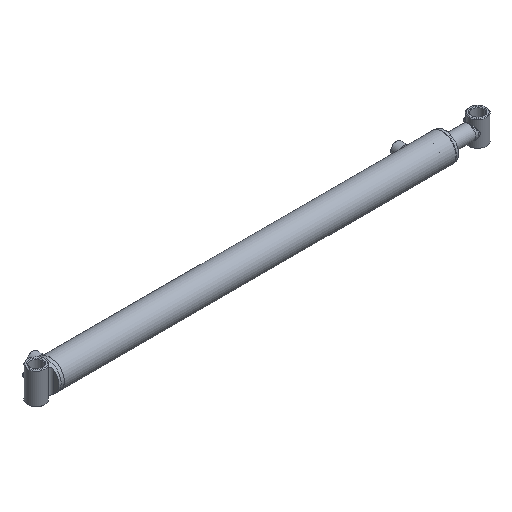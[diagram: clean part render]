
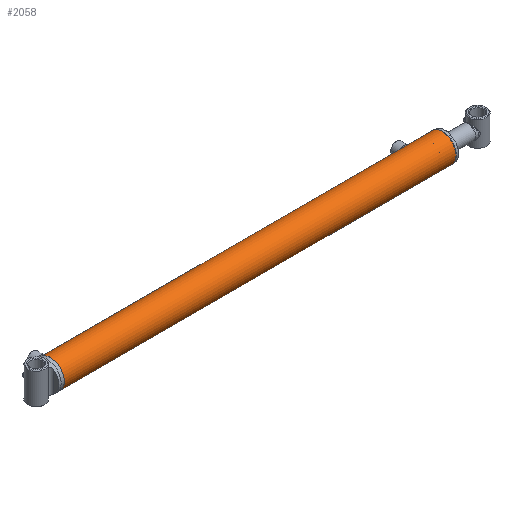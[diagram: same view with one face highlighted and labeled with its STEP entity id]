
A CAD part, isometric view. The second image highlights one B-rep face of the part: STEP entity #2058.
In plain terms, the highlighted cylindrical face has radius 30.163 mm (diameter 60.325 mm), a full revolution.
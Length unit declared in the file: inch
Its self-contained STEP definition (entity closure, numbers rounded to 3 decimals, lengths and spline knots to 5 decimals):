
#377=FACE_BOUND('',#700,.T.);
#378=FACE_BOUND('',#701,.T.);
#379=FACE_BOUND('',#702,.T.);
#500=FACE_OUTER_BOUND('',#699,.T.);
#699=EDGE_LOOP('',(#1636));
#700=EDGE_LOOP('',(#1637));
#701=EDGE_LOOP('',(#1638));
#702=EDGE_LOOP('',(#1639));
#908=CIRCLE('',#2250,1.1875);
#912=CIRCLE('',#2258,1.1875);
#1027=B_SPLINE_CURVE_WITH_KNOTS('',3,(#4688,#4689,#4690,#4691,#4692,#4693,
#4694,#4695,#4696,#4697,#4698,#4699,#4700,#4701,#4702,#4703,#4704,#4705,
#4706,#4707,#4708,#4709,#4710,#4711,#4712,#4713,#4714,#4715,#4716,#4717,
#4718,#4719,#4720,#4721),.UNSPECIFIED.,.T.,.F.,(4,2,2,2,2,2,2,2,2,2,2,2,
2,2,2,2,4),(0.,0.18872,0.37744,0.56616,0.75487,
0.94359,1.1323,1.32102,1.50975,1.69847,
1.88719,2.0759,2.26462,2.45333,2.64205,
2.83077,3.01949),.UNSPECIFIED.);
#1029=B_SPLINE_CURVE_WITH_KNOTS('',3,(#4886,#4887,#4888,#4889,#4890,#4891,
#4892,#4893,#4894,#4895,#4896,#4897,#4898,#4899,#4900,#4901,#4902,#4903,
#4904,#4905,#4906,#4907,#4908,#4909,#4910,#4911,#4912,#4913,#4914,#4915,
#4916,#4917,#4918,#4919),.UNSPECIFIED.,.T.,.F.,(4,2,2,2,2,2,2,2,2,2,2,2,
2,2,2,2,4),(0.,0.18872,0.37744,0.56616,0.75487,
0.94359,1.1323,1.32102,1.50975,1.69847,
1.88719,2.0759,2.26462,2.45333,2.64205,
2.83077,3.01949),.UNSPECIFIED.);
#1098=VERTEX_POINT('',#4687);
#1100=VERTEX_POINT('',#4885);
#1104=VERTEX_POINT('',#4929);
#1108=VERTEX_POINT('',#4941);
#1303=EDGE_CURVE('',#1098,#1098,#1027,.T.);
#1306=EDGE_CURVE('',#1100,#1100,#1029,.T.);
#1310=EDGE_CURVE('',#1104,#1104,#908,.T.);
#1314=EDGE_CURVE('',#1108,#1108,#912,.T.);
#1636=ORIENTED_EDGE('',*,*,#1314,.T.);
#1637=ORIENTED_EDGE('',*,*,#1303,.T.);
#1638=ORIENTED_EDGE('',*,*,#1306,.T.);
#1639=ORIENTED_EDGE('',*,*,#1310,.F.);
#1980=CYLINDRICAL_SURFACE('',#2260,1.1875);
#2058=ADVANCED_FACE('',(#500,#377,#378,#379),#1980,.T.);
#2250=AXIS2_PLACEMENT_3D('',#4930,#2627,#2628);
#2258=AXIS2_PLACEMENT_3D('',#4942,#2643,#2644);
#2260=AXIS2_PLACEMENT_3D('',#4944,#2647,#2648);
#2627=DIRECTION('center_axis',(1.,0.,0.));
#2628=DIRECTION('ref_axis',(0.,-1.,0.));
#2643=DIRECTION('center_axis',(1.,0.,0.));
#2644=DIRECTION('ref_axis',(0.,-1.,0.));
#2647=DIRECTION('center_axis',(1.,0.,0.));
#2648=DIRECTION('ref_axis',(0.,-1.,0.));
#4687=CARTESIAN_POINT('',(14.94094,1.17107,-0.19685));
#4688=CARTESIAN_POINT('Ctrl Pts',(14.94094,1.17107,-0.19685));
#4689=CARTESIAN_POINT('Ctrl Pts',(14.96571,1.17107,-0.19685));
#4690=CARTESIAN_POINT('Ctrl Pts',(14.9921,1.17194,-0.19189));
#4691=CARTESIAN_POINT('Ctrl Pts',(15.04058,1.17505,-0.17179));
#4692=CARTESIAN_POINT('Ctrl Pts',(15.06269,1.17725,-0.15665));
#4693=CARTESIAN_POINT('Ctrl Pts',(15.09759,1.18137,-0.12174));
#4694=CARTESIAN_POINT('Ctrl Pts',(15.11273,1.18356,-0.09964));
#4695=CARTESIAN_POINT('Ctrl Pts',(15.13284,1.18665,-0.05115));
#4696=CARTESIAN_POINT('Ctrl Pts',(15.1378,1.1875,-0.02477));
#4697=CARTESIAN_POINT('Ctrl Pts',(15.1378,1.1875,0.02477));
#4698=CARTESIAN_POINT('Ctrl Pts',(15.13284,1.18665,0.05115));
#4699=CARTESIAN_POINT('Ctrl Pts',(15.11273,1.18356,0.09964));
#4700=CARTESIAN_POINT('Ctrl Pts',(15.09759,1.18137,0.12174));
#4701=CARTESIAN_POINT('Ctrl Pts',(15.06269,1.17725,0.15665));
#4702=CARTESIAN_POINT('Ctrl Pts',(15.04058,1.17505,0.17179));
#4703=CARTESIAN_POINT('Ctrl Pts',(14.9921,1.17194,0.19189));
#4704=CARTESIAN_POINT('Ctrl Pts',(14.96571,1.17107,0.19685));
#4705=CARTESIAN_POINT('Ctrl Pts',(14.91618,1.17107,0.19685));
#4706=CARTESIAN_POINT('Ctrl Pts',(14.88979,1.17194,0.19189));
#4707=CARTESIAN_POINT('Ctrl Pts',(14.84131,1.17505,0.17179));
#4708=CARTESIAN_POINT('Ctrl Pts',(14.8192,1.17725,0.15665));
#4709=CARTESIAN_POINT('Ctrl Pts',(14.7843,1.18137,0.12174));
#4710=CARTESIAN_POINT('Ctrl Pts',(14.76916,1.18356,0.09964));
#4711=CARTESIAN_POINT('Ctrl Pts',(14.74905,1.18665,0.05115));
#4712=CARTESIAN_POINT('Ctrl Pts',(14.74409,1.1875,0.02477));
#4713=CARTESIAN_POINT('Ctrl Pts',(14.74409,1.1875,-0.02477));
#4714=CARTESIAN_POINT('Ctrl Pts',(14.74905,1.18665,-0.05115));
#4715=CARTESIAN_POINT('Ctrl Pts',(14.76916,1.18356,-0.09964));
#4716=CARTESIAN_POINT('Ctrl Pts',(14.7843,1.18137,-0.12174));
#4717=CARTESIAN_POINT('Ctrl Pts',(14.8192,1.17725,-0.15665));
#4718=CARTESIAN_POINT('Ctrl Pts',(14.84131,1.17505,-0.17179));
#4719=CARTESIAN_POINT('Ctrl Pts',(14.88979,1.17194,-0.19189));
#4720=CARTESIAN_POINT('Ctrl Pts',(14.91618,1.17107,-0.19685));
#4721=CARTESIAN_POINT('Ctrl Pts',(14.94094,1.17107,-0.19685));
#4885=CARTESIAN_POINT('',(-16.35827,1.17107,-0.19685));
#4886=CARTESIAN_POINT('Ctrl Pts',(-16.35827,1.17107,-0.19685));
#4887=CARTESIAN_POINT('Ctrl Pts',(-16.3335,1.17107,-0.19685));
#4888=CARTESIAN_POINT('Ctrl Pts',(-16.30712,1.17194,-0.19189));
#4889=CARTESIAN_POINT('Ctrl Pts',(-16.25863,1.17505,-0.17179));
#4890=CARTESIAN_POINT('Ctrl Pts',(-16.23653,1.17725,-0.15665));
#4891=CARTESIAN_POINT('Ctrl Pts',(-16.20162,1.18137,-0.12174));
#4892=CARTESIAN_POINT('Ctrl Pts',(-16.18648,1.18356,-0.09964));
#4893=CARTESIAN_POINT('Ctrl Pts',(-16.16638,1.18665,-0.05115));
#4894=CARTESIAN_POINT('Ctrl Pts',(-16.16142,1.1875,-0.02477));
#4895=CARTESIAN_POINT('Ctrl Pts',(-16.16142,1.1875,0.02477));
#4896=CARTESIAN_POINT('Ctrl Pts',(-16.16638,1.18665,0.05115));
#4897=CARTESIAN_POINT('Ctrl Pts',(-16.18648,1.18356,0.09964));
#4898=CARTESIAN_POINT('Ctrl Pts',(-16.20162,1.18137,0.12174));
#4899=CARTESIAN_POINT('Ctrl Pts',(-16.23653,1.17725,0.15665));
#4900=CARTESIAN_POINT('Ctrl Pts',(-16.25863,1.17505,0.17179));
#4901=CARTESIAN_POINT('Ctrl Pts',(-16.30712,1.17194,0.19189));
#4902=CARTESIAN_POINT('Ctrl Pts',(-16.3335,1.17107,0.19685));
#4903=CARTESIAN_POINT('Ctrl Pts',(-16.38303,1.17107,0.19685));
#4904=CARTESIAN_POINT('Ctrl Pts',(-16.40942,1.17194,0.19189));
#4905=CARTESIAN_POINT('Ctrl Pts',(-16.45791,1.17505,0.17179));
#4906=CARTESIAN_POINT('Ctrl Pts',(-16.48001,1.17725,0.15665));
#4907=CARTESIAN_POINT('Ctrl Pts',(-16.51491,1.18137,0.12174));
#4908=CARTESIAN_POINT('Ctrl Pts',(-16.53006,1.18356,0.09964));
#4909=CARTESIAN_POINT('Ctrl Pts',(-16.55016,1.18665,0.05115));
#4910=CARTESIAN_POINT('Ctrl Pts',(-16.55512,1.1875,0.02477));
#4911=CARTESIAN_POINT('Ctrl Pts',(-16.55512,1.1875,-0.02477));
#4912=CARTESIAN_POINT('Ctrl Pts',(-16.55016,1.18665,-0.05115));
#4913=CARTESIAN_POINT('Ctrl Pts',(-16.53006,1.18356,-0.09964));
#4914=CARTESIAN_POINT('Ctrl Pts',(-16.51491,1.18137,-0.12174));
#4915=CARTESIAN_POINT('Ctrl Pts',(-16.48001,1.17725,-0.15665));
#4916=CARTESIAN_POINT('Ctrl Pts',(-16.45791,1.17505,-0.17179));
#4917=CARTESIAN_POINT('Ctrl Pts',(-16.40942,1.17194,-0.19189));
#4918=CARTESIAN_POINT('Ctrl Pts',(-16.38303,1.17107,-0.19685));
#4919=CARTESIAN_POINT('Ctrl Pts',(-16.35827,1.17107,-0.19685));
#4929=CARTESIAN_POINT('',(16.94882,1.1875,0.));
#4930=CARTESIAN_POINT('Origin',(16.94882,0.,0.));
#4941=CARTESIAN_POINT('',(-16.78494,1.1875,0.));
#4942=CARTESIAN_POINT('Origin',(-16.78494,0.,0.));
#4944=CARTESIAN_POINT('Origin',(0.,0.,0.));
